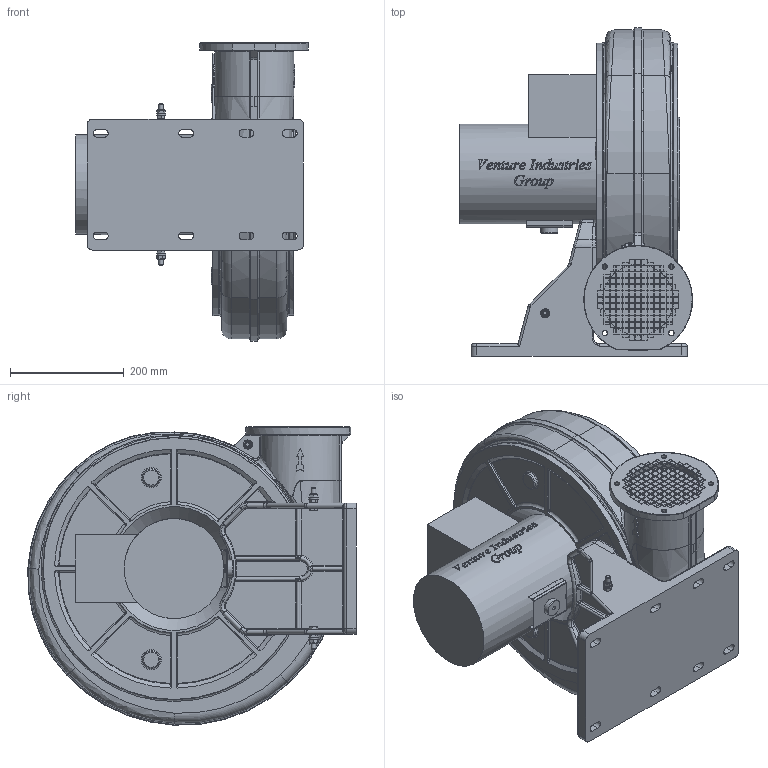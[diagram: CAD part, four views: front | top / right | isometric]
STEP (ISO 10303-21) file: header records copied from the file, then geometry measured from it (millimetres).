
FILE_DESCRIPTION(/* description */ (''),/* implementation_level */ '2;1');
FILE_NAME(/* name */ 'E:\Mariusz\Modele uproszczone\EBA\EBA 300\EBA_X_300X LG270 45519600\EBA_X_300X LG270 45519600.stp',/* time_stamp */ '2020-01-30T13:43:23+01:00',/* author */ ('M.Janczarek'),/* organization */ (''),/* preprocessor_version */ 'ST-DEVELOPER v16.13',/* originating_system */ 'Autodesk Inventor 2018',/* authorisation */ '');
FILE_SCHEMA (('AUTOMOTIVE_DESIGN { 1 0 10303 214 3 1 1 }'));
Products named in the file (1): EBA_X_300X LG270 45519600
Bounding box: 409.29 x 576.98 x 523.99 mm (x, y, z)
Volume: 39661933.8 mm3; surface area: 1335402 mm2
Topology: 1 solids, 1 shells, 3075 faces, 8412 edges, 5395 vertices
Faces by surface type: plane 1777, bspline 798, cylinder 296, torus 95, cone 69, sphere 40
Full cylindrical faces by diameter (mm): 4.917 x8, 6.647 x1, 7.1 x8, 8 x4, 8.4 x2, 9.2 x4, 9.5 x4, 11.4 x3, 15 x1, 15.2 x1, 16 x4, 30 x1, 125 x1, 175.6 x1, 200 x2, 460 x2, 461 x2
Entity records: 116796 total; most frequent: CARTESIAN_POINT 40343, ORIENTED_EDGE 16558, DIRECTION 12755, EDGE_CURVE 8279, LINE 5517, VECTOR 5517, VERTEX_POINT 5376, EDGE_LOOP 3801
